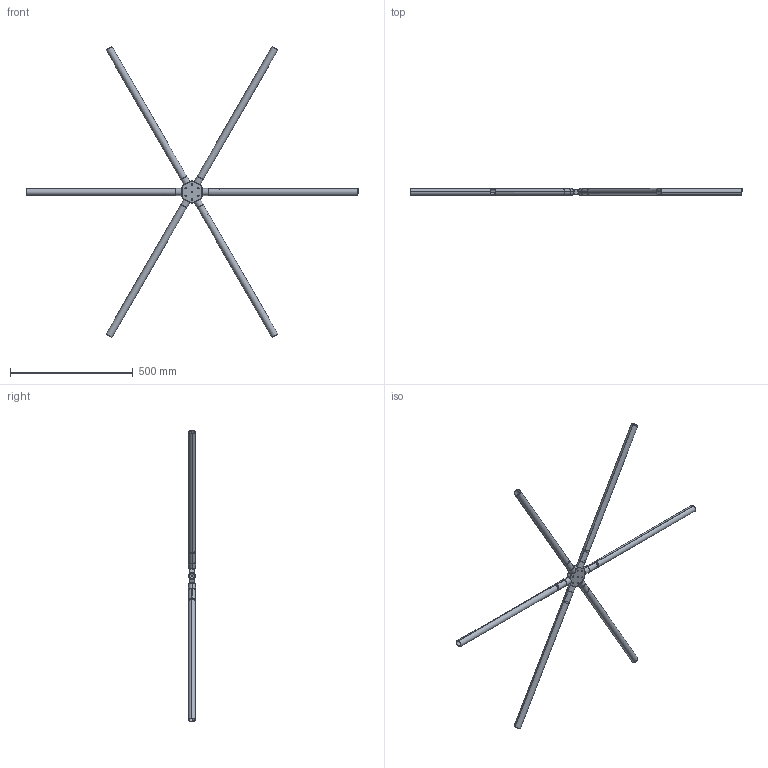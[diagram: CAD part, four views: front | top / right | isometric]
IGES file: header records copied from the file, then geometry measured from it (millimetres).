
Start section: SolidWorks IGES file using analytic representation for surfaces
Global section: file name: \\SERVER3\Design\_NEWDE~1\_DESIG~1\AAI\MODULA~1\SOLIDW~1\DEMONS~1\25DBF2~1.ASS\MODULA~1\769F8~1.RAD\RADIAL~2\Six Sided Connector with Six Threaded End Connectors Connection.IGS; native system: SolidWorks 2013; preprocessor: SolidWorks 2013; author: tbraun; date: 130819.121120; units: inch
Bounding box: 1352.5 x 28.57 x 1185.01 mm (x, y, z)
Surface area: 706628 mm2 (no closed solid volume)
Topology: 0 solids, 0 shells, 796 faces, 13266 edges, 13242 vertices
Faces by surface type: revolution 572, bspline 224
